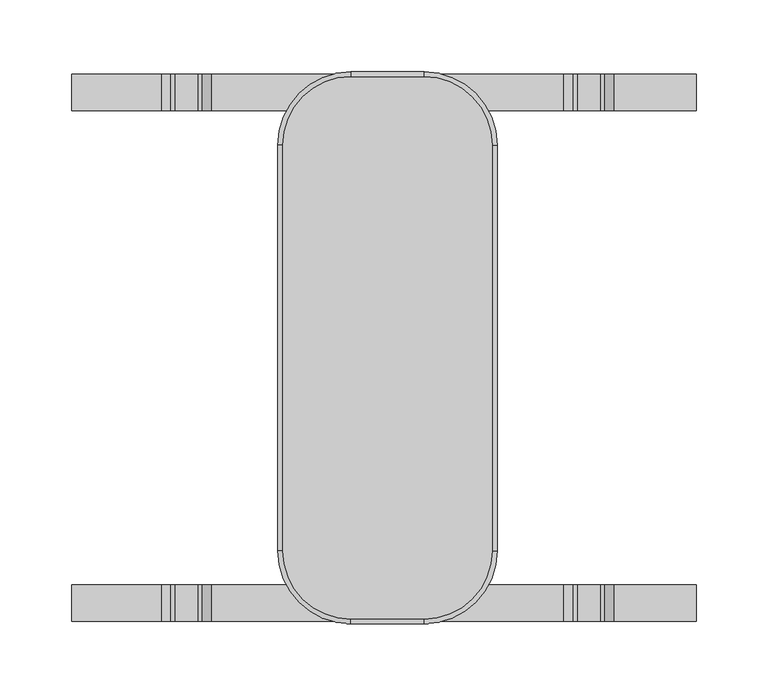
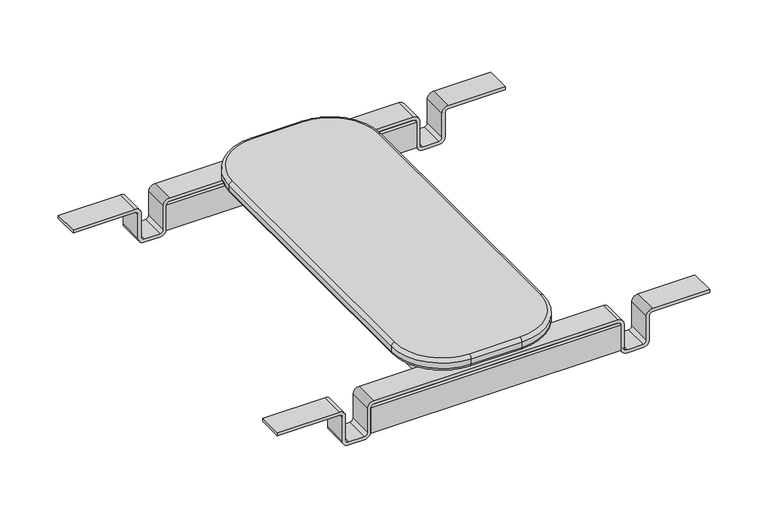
"""IFC4 building model written with IfcOpenShell, lengths in millimetres: furniture geometry, Stance_HC-Spry-Linking_Bracket : SPLT6."""

from ifc_helpers import new_model, si_unit, point, frame, frame_2d, origin, place, context, project, spatial, polyline, circle_curve, ellipse_curve, trimmed, segment, composite_curve, outline, extrude, source, transform, mapped, element, save
from ifc_brep_helpers import plane_surface, cylinder_surface, revolved_surface, advanced_brep


def furniture_fae9c8eb(model_context):
    return source(origin(), model_context, "Body", "SolidModel", [
        extrude(outline(polyline([(28.0190545, -164.7825), (2.6190545, -164.7825), (2.6190545, 164.7825), (28.0190545, 164.7825), (28.0190545, -164.7825)])), frame((0.0, 0.0, 353.1938169), z_axis=(0.0, 0.0, 1.0), x_axis=(1.0, 0.0, 0.0)), (0.0, 0.0, 1.0), 25.4),
        extrude(outline(polyline([(109.7429788, -164.7825), (84.3429788, -164.7825), (84.3429788, 164.7825), (109.7429788, 164.7825), (109.7429788, -164.7825)])), frame((0.0, 0.0, 353.1938169), z_axis=(0.0, 0.0, 1.0), x_axis=(1.0, 0.0, 0.0)), (0.0, 0.0, 1.0), 25.4),
        advanced_brep(
        [(132.3810167, 140.9523441, 386.8898412), (81.5810167, 191.7523441, 386.8898412), (81.5810167, 188.5773441, 390.0648412), (129.2060167, 140.9523441, 390.0648412), (132.3810167, 140.9523441, 381.2510412), (81.5810167, 191.7523441, 381.2510412), (129.2060167, 140.9523441, 378.0760412), (81.5810167, 188.5773441, 378.0760412), (129.2060167, -140.9523441, 390.0648412), (132.3810167, -140.9523441, 386.8898412), (132.3810167, -140.9523441, 381.2510412), (129.2060167, -140.9523441, 378.0760412), (81.5810167, -188.5773441, 390.0648412), (81.5810167, -191.7523441, 386.8898412), (81.5810167, -191.7523441, 381.2510412), (81.5810167, -188.5773441, 378.0760412), (30.7810167, -188.5773441, 390.0648412), (30.7810167, -191.7523441, 386.8898412), (30.7810167, -191.7523441, 381.2510412), (30.7810167, -188.5773441, 378.0760412), (-16.8439833, -140.9523441, 390.0648412), (-20.0189833, -140.9523441, 386.8898412), (-20.0189833, -140.9523441, 381.2510412), (-16.8439833, -140.9523441, 378.0760412), (-16.8439833, 140.9523441, 390.0648412), (-20.0189833, 140.9523441, 386.8898412), (-20.0189833, 140.9523441, 381.2510412), (-16.8439833, 140.9523441, 378.0760412), (30.7810167, 188.5773441, 390.0648412), (30.7810167, 191.7523441, 386.8898412), (30.7810167, 191.7523441, 381.2510412), (30.7810167, 188.5773441, 378.0760412)],
        [
            (0, 1, circle_curve(frame((81.5810167, 140.9523441, 386.8898412), z_axis=(0.0, 0.0, 1.0), x_axis=(0.0, 1.0, 0.0)), 50.8)),
            (1, 2, circle_curve(frame((81.5810167, 188.5773441, 386.8898412), z_axis=(1.0, 0.0, 0.0), x_axis=(0.0, 1.0, 0.0)), 3.175)),
            (2, 3, circle_curve(frame((81.5810167, 140.9523441, 390.0648412), z_axis=(0.0, 0.0, -1.0), x_axis=(0.0, 1.0, 0.0)), 47.625)),
            (3, 0, circle_curve(frame((129.2060167, 140.9523441, 386.8898412), z_axis=(0.0, 1.0, 0.0), x_axis=(1.0, 0.0, 0.0)), 3.175)),
            (0, 4),
            (4, 5, circle_curve(frame((81.5810167, 140.9523441, 381.2510412), z_axis=(0.0, 0.0, 1.0), x_axis=(0.0, 1.0, 0.0)), 50.8)),
            (5, 1),
            (4, 6, circle_curve(frame((129.2060167, 140.9523441, 381.2510412), z_axis=(0.0, 1.0, 0.0), x_axis=(1.0, 0.0, 0.0)), 3.175)),
            (6, 7, circle_curve(frame((81.5810167, 140.9523441, 378.0760412), z_axis=(0.0, 0.0, 1.0), x_axis=(0.0, 1.0, 0.0)), 47.625)),
            (7, 5, circle_curve(frame((81.5810167, 188.5773441, 381.2510412), z_axis=(1.0, 0.0, 0.0), x_axis=(0.0, 1.0, 0.0)), 3.175)),
            (3, 8),
            (8, 9, circle_curve(frame((129.2060167, -140.9523441, 386.8898412), z_axis=(0.0, 1.0, 0.0), x_axis=(1.0, 0.0, 0.0)), 3.175)),
            (9, 0),
            (9, 10),
            (10, 4),
            (10, 11, circle_curve(frame((129.2060167, -140.9523441, 381.2510412), z_axis=(0.0, 1.0, 0.0), x_axis=(1.0, 0.0, 0.0)), 3.175)),
            (11, 6),
            (8, 12, circle_curve(frame((81.5810167, -140.9523441, 390.0648412), z_axis=(0.0, 0.0, -1.0), x_axis=(1.0, 0.0, 0.0)), 47.625)),
            (12, 13, circle_curve(frame((81.5810167, -188.5773441, 386.8898412), z_axis=(1.0, 0.0, 0.0), x_axis=(0.0, -1.0, 0.0)), 3.175)),
            (13, 9, circle_curve(frame((81.5810167, -140.9523441, 386.8898412), z_axis=(0.0, 0.0, 1.0), x_axis=(1.0, 0.0, 0.0)), 50.8)),
            (13, 14),
            (14, 10, circle_curve(frame((81.5810167, -140.9523441, 381.2510412), z_axis=(0.0, 0.0, 1.0), x_axis=(1.0, 0.0, 0.0)), 50.8)),
            (14, 15, circle_curve(frame((81.5810167, -188.5773441, 381.2510412), z_axis=(1.0, 0.0, 0.0), x_axis=(0.0, -1.0, 0.0)), 3.175)),
            (15, 11, circle_curve(frame((81.5810167, -140.9523441, 378.0760412), z_axis=(0.0, 0.0, 1.0), x_axis=(1.0, 0.0, 0.0)), 47.625)),
            (12, 16),
            (16, 17, circle_curve(frame((30.7810167, -188.5773441, 386.8898412), z_axis=(1.0, 0.0, 0.0), x_axis=(0.0, -1.0, 0.0)), 3.175)),
            (17, 13),
            (17, 18),
            (18, 14),
            (18, 19, circle_curve(frame((30.7810167, -188.5773441, 381.2510412), z_axis=(1.0, 0.0, 0.0), x_axis=(0.0, -1.0, 0.0)), 3.175)),
            (19, 15),
            (16, 20, circle_curve(frame((30.7810167, -140.9523441, 390.0648412), z_axis=(0.0, 0.0, -1.0), x_axis=(0.0, -1.0, 0.0)), 47.625)),
            (20, 21, circle_curve(frame((-16.8439833, -140.9523441, 386.8898412), z_axis=(0.0, -1.0, 0.0), x_axis=(-1.0, 0.0, 0.0)), 3.175)),
            (21, 17, circle_curve(frame((30.7810167, -140.9523441, 386.8898412), z_axis=(0.0, 0.0, 1.0), x_axis=(0.0, -1.0, 0.0)), 50.8)),
            (21, 22),
            (22, 18, circle_curve(frame((30.7810167, -140.9523441, 381.2510412), z_axis=(0.0, 0.0, 1.0), x_axis=(0.0, -1.0, 0.0)), 50.8)),
            (22, 23, circle_curve(frame((-16.8439833, -140.9523441, 381.2510412), z_axis=(0.0, -1.0, 0.0), x_axis=(-1.0, 0.0, 0.0)), 3.175)),
            (23, 19, circle_curve(frame((30.7810167, -140.9523441, 378.0760412), z_axis=(0.0, 0.0, 1.0), x_axis=(0.0, -1.0, 0.0)), 47.625)),
            (20, 24),
            (24, 25, circle_curve(frame((-16.8439833, 140.9523441, 386.8898412), z_axis=(0.0, -1.0, 0.0), x_axis=(-1.0, 0.0, 0.0)), 3.175)),
            (25, 21),
            (25, 26),
            (26, 22),
            (26, 27, circle_curve(frame((-16.8439833, 140.9523441, 381.2510412), z_axis=(0.0, -1.0, 0.0), x_axis=(-1.0, 0.0, 0.0)), 3.175)),
            (27, 23),
            (24, 28, circle_curve(frame((30.7810167, 140.9523441, 390.0648412), z_axis=(0.0, 0.0, -1.0), x_axis=(-1.0, 0.0, 0.0)), 47.625)),
            (28, 29, circle_curve(frame((30.7810167, 188.5773441, 386.8898412), z_axis=(-1.0, 0.0, 0.0), x_axis=(0.0, 1.0, 0.0)), 3.175)),
            (29, 25, circle_curve(frame((30.7810167, 140.9523441, 386.8898412), z_axis=(0.0, 0.0, 1.0), x_axis=(-1.0, 0.0, 0.0)), 50.8)),
            (29, 30),
            (30, 26, circle_curve(frame((30.7810167, 140.9523441, 381.2510412), z_axis=(0.0, 0.0, 1.0), x_axis=(-1.0, 0.0, 0.0)), 50.8)),
            (30, 31, circle_curve(frame((30.7810167, 188.5773441, 381.2510412), z_axis=(-1.0, 0.0, 0.0), x_axis=(0.0, 1.0, 0.0)), 3.175)),
            (31, 27, circle_curve(frame((30.7810167, 140.9523441, 378.0760412), z_axis=(0.0, 0.0, 1.0), x_axis=(-1.0, 0.0, 0.0)), 47.625)),
            (1, 29),
            (28, 2),
            (5, 30),
            (7, 31),
        ],
        [
            revolved_surface(trimmed(ellipse_curve(frame((81.5810167, 188.5773441, 386.8898412), z_axis=(-1.0, 0.0, 0.0), x_axis=(0.0, 1.0, 0.0)), 3.175, 3.175), [point((81.5810167, 188.5773441, 390.0648412))], [point((81.5810167, 191.7523441, 386.8898412))], True, "CARTESIAN"), (81.5810167, 140.9523441, 0.0), (0.0, 0.0, -1.0)),
            cylinder_surface(frame((81.5810167, 140.9523441, 0.0), z_axis=(0.0, 0.0, -1.0), x_axis=(0.0, 1.0, 0.0)), 50.8),
            revolved_surface(trimmed(ellipse_curve(frame((81.5810167, 188.5773441, 381.2510412), z_axis=(-1.0, 0.0, 0.0), x_axis=(0.0, 1.0, 0.0)), 3.175, 3.175), [point((81.5810167, 191.7523441, 381.2510412))], [point((81.5810167, 188.5773441, 378.0760412))], True, "CARTESIAN"), (81.5810167, 140.9523441, 0.0), (0.0, 0.0, -1.0)),
            cylinder_surface(frame((129.2060167, 140.9523441, 386.8898412), z_axis=(0.0, 1.0, 0.0), x_axis=(1.0, 0.0, 0.0)), 3.175),
            plane_surface(frame((132.3810167, 140.9523441, 386.8898412), z_axis=(1.0, 0.0, 0.0), x_axis=(0.0, -1.0, 0.0))),
            cylinder_surface(frame((129.2060167, 140.9523441, 381.2510412), z_axis=(0.0, 1.0, 0.0), x_axis=(1.0, 0.0, 0.0)), 3.175),
            revolved_surface(trimmed(ellipse_curve(frame((129.2060167, -140.9523441, 386.8898412), z_axis=(0.0, 1.0, 0.0), x_axis=(1.0, 0.0, 0.0)), 3.175, 3.175), [point((129.2060167, -140.9523441, 390.0648412))], [point((132.3810167, -140.9523441, 386.8898412))], True, "CARTESIAN"), (81.5810167, -140.9523441, 0.0), (0.0, 0.0, -1.0)),
            cylinder_surface(frame((81.5810167, -140.9523441, 0.0), z_axis=(0.0, 0.0, -1.0), x_axis=(1.0, 0.0, 0.0)), 50.8),
            revolved_surface(trimmed(ellipse_curve(frame((129.2060167, -140.9523441, 381.2510412), z_axis=(0.0, 1.0, 0.0), x_axis=(1.0, 0.0, 0.0)), 3.175, 3.175), [point((132.3810167, -140.9523441, 381.2510412))], [point((129.2060167, -140.9523441, 378.0760412))], True, "CARTESIAN"), (81.5810167, -140.9523441, 0.0), (0.0, 0.0, -1.0)),
            cylinder_surface(frame((81.5810167, -188.5773441, 386.8898412), z_axis=(1.0, 0.0, 0.0), x_axis=(0.0, -1.0, 0.0)), 3.175),
            plane_surface(frame((81.5810167, -191.7523441, 386.8898412), z_axis=(0.0, -1.0, 0.0), x_axis=(-1.0, 0.0, 0.0))),
            cylinder_surface(frame((81.5810167, -188.5773441, 381.2510412), z_axis=(1.0, 0.0, 0.0), x_axis=(0.0, -1.0, 0.0)), 3.175),
            revolved_surface(trimmed(ellipse_curve(frame((30.7810167, -188.5773441, 386.8898412), z_axis=(1.0, 0.0, 0.0), x_axis=(0.0, -1.0, 0.0)), 3.175, 3.175), [point((30.7810167, -188.5773441, 390.0648412))], [point((30.7810167, -191.7523441, 386.8898412))], True, "CARTESIAN"), (30.7810167, -140.9523441, 0.0), (0.0, 0.0, -1.0)),
            cylinder_surface(frame((30.7810167, -140.9523441, 0.0), z_axis=(0.0, 0.0, -1.0), x_axis=(0.0, -1.0, 0.0)), 50.8),
            revolved_surface(trimmed(ellipse_curve(frame((30.7810167, -188.5773441, 381.2510412), z_axis=(1.0, 0.0, 0.0), x_axis=(0.0, -1.0, 0.0)), 3.175, 3.175), [point((30.7810167, -191.7523441, 381.2510412))], [point((30.7810167, -188.5773441, 378.0760412))], True, "CARTESIAN"), (30.7810167, -140.9523441, 0.0), (0.0, 0.0, -1.0)),
            cylinder_surface(frame((-16.8439833, -140.9523441, 386.8898412), z_axis=(0.0, -1.0, 0.0), x_axis=(-1.0, 0.0, 0.0)), 3.175),
            plane_surface(frame((-20.0189833, -140.9523441, 386.8898412), z_axis=(-1.0, 0.0, 0.0), x_axis=(0.0, 1.0, 0.0))),
            cylinder_surface(frame((-16.8439833, -140.9523441, 381.2510412), z_axis=(0.0, -1.0, 0.0), x_axis=(-1.0, 0.0, 0.0)), 3.175),
            revolved_surface(trimmed(ellipse_curve(frame((-16.8439833, 140.9523441, 386.8898412), z_axis=(0.0, -1.0, 0.0), x_axis=(-1.0, 0.0, 0.0)), 3.175, 3.175), [point((-16.8439833, 140.9523441, 390.0648412))], [point((-20.0189833, 140.9523441, 386.8898412))], True, "CARTESIAN"), (30.7810167, 140.9523441, 0.0), (0.0, 0.0, -1.0)),
            cylinder_surface(frame((30.7810167, 140.9523441, 0.0), z_axis=(0.0, 0.0, -1.0), x_axis=(-1.0, 0.0, 0.0)), 50.8),
            revolved_surface(trimmed(ellipse_curve(frame((-16.8439833, 140.9523441, 381.2510412), z_axis=(0.0, -1.0, 0.0), x_axis=(-1.0, 0.0, 0.0)), 3.175, 3.175), [point((-20.0189833, 140.9523441, 381.2510412))], [point((-16.8439833, 140.9523441, 378.0760412))], True, "CARTESIAN"), (30.7810167, 140.9523441, 0.0), (0.0, 0.0, -1.0)),
            cylinder_surface(frame((30.7810167, 188.5773441, 386.8898412), z_axis=(-1.0, 0.0, 0.0), x_axis=(0.0, 1.0, 0.0)), 3.175),
            plane_surface(frame((30.7810167, 191.7523441, 386.8898412), z_axis=(0.0, 1.0, 0.0), x_axis=(1.0, 0.0, 0.0))),
            cylinder_surface(frame((30.7810167, 188.5773441, 381.2510412), z_axis=(-1.0, 0.0, 0.0), x_axis=(0.0, 1.0, 0.0)), 3.175),
            plane_surface(frame((-16.8439833, -140.9523441, 390.0648412), z_axis=(0.0, 0.0, 1.0), x_axis=(0.0, -1.0, 0.0))),
            plane_surface(frame((-16.8439833, -140.9523441, 378.0760412), z_axis=(0.0, 0.0, -1.0), x_axis=(0.0, 1.0, 0.0))),
        ],
        [
            (0, [[1, 2, 3, 4]]),
            (1, [[-1, 5, 6, 7]]),
            (2, [[-6, 8, 9, 10]]),
            (3, [[-4, 11, 12, 13]]),
            (4, [[-5, -13, 14, 15]]),
            (5, [[-8, -15, 16, 17]]),
            (6, [[-12, 18, 19, 20]]),
            (7, [[-14, -20, 21, 22]]),
            (8, [[-16, -22, 23, 24]]),
            (9, [[-19, 25, 26, 27]]),
            (10, [[-21, -27, 28, 29]]),
            (11, [[-23, -29, 30, 31]]),
            (12, [[-26, 32, 33, 34]]),
            (13, [[-28, -34, 35, 36]]),
            (14, [[-30, -36, 37, 38]]),
            (15, [[-33, 39, 40, 41]]),
            (16, [[-35, -41, 42, 43]]),
            (17, [[-37, -43, 44, 45]]),
            (18, [[-40, 46, 47, 48]]),
            (19, [[-42, -48, 49, 50]]),
            (20, [[-44, -50, 51, 52]]),
            (21, [[-2, 53, -47, 54]]),
            (22, [[-7, 55, -49, -53]]),
            (23, [[-10, 56, -51, -55]]),
            (24, [[-3, -54, -46, -39, -32, -25, -18, -11]]),
            (25, [[-9, -17, -24, -31, -38, -45, -52, -56]]),
        ],
    ),
        extrude(outline(polyline([(-69.2314833, 187.0075), (-69.2314833, 190.1825), (181.5935167, 190.1825), (181.5935167, 187.0075), (-69.2314833, 187.0075)])), frame((0.0, 0.0, 341.9015102), z_axis=(0.0, 0.0, 1.0), x_axis=(1.0, 0.0, 0.0)), (0.0, 0.0, 1.0), 26.9875),
        extrude(outline(polyline([(-69.2314833, 164.7825), (-69.2314833, 167.9575), (181.5935167, 167.9575), (181.5935167, 164.7825), (-69.2314833, 164.7825)])), frame((0.0, 0.0, 341.9015102), z_axis=(0.0, 0.0, 1.0), x_axis=(1.0, 0.0, 0.0)), (0.0, 0.0, 1.0), 26.9875),
        extrude(outline(polyline([(-69.2314833, -190.1825), (-69.2314833, -187.0075), (181.5935167, -187.0075), (181.5935167, -190.1825), (-69.2314833, -190.1825)])), frame((0.0, 0.0, 341.9015102), z_axis=(0.0, 0.0, 1.0), x_axis=(1.0, 0.0, 0.0)), (0.0, 0.0, 1.0), 26.9875),
        extrude(outline(polyline([(-69.2314833, -167.9575), (-69.2314833, -164.7825), (181.5935167, -164.7825), (181.5935167, -167.9575), (-69.2314833, -167.9575)])), frame((0.0, 0.0, 341.9015102), z_axis=(0.0, 0.0, 1.0), x_axis=(1.0, 0.0, 0.0)), (0.0, 0.0, 1.0), 26.9875),
        extrude(outline(composite_curve([segment(polyline([(375.2390102, -162.8939833), (372.0640102, -162.8939833), (372.0640102, -100.9814833)]), True, "CONTINUOUS"), segment(trimmed(circle_curve(frame_2d((368.8890102, -100.9814833)), 3.175), [point((372.0640102, -100.9814833))], [point((368.8890102, -97.8064833))], True, "CARTESIAN"), True, "CONTINUOUS"), segment(polyline([(368.8890102, -97.8064833), (343.4890102, -97.8064833)]), True, "CONTINUOUS"), segment(trimmed(circle_curve(frame_2d((343.4890102, -91.4564833)), 6.35), [point((343.4890102, -97.8064833))], [point((337.1390102, -91.4564833))], False, "CARTESIAN"), True, "CONTINUOUS"), segment(polyline([(337.1390102, -91.4564833), (337.1390102, -75.5814833)]), True, "CONTINUOUS"), segment(trimmed(circle_curve(frame_2d((343.4890102, -75.5814833)), 6.35), [point((337.1390102, -75.5814833))], [point((343.4890102, -69.2314833))], False, "CARTESIAN"), True, "CONTINUOUS"), segment(polyline([(343.4890102, -69.2314833), (368.8890102, -69.2314833)]), True, "CONTINUOUS"), segment(trimmed(circle_curve(frame_2d((368.8890102, -66.0564833)), 3.175), [point((368.8890102, -69.2314833))], [point((372.0640102, -66.0564833))], True, "CARTESIAN"), True, "CONTINUOUS"), segment(polyline([(372.0640102, -66.0564833), (372.0640102, 178.4185167)]), True, "CONTINUOUS"), segment(trimmed(circle_curve(frame_2d((368.8890102, 178.4185167)), 3.175), [point((372.0640102, 178.4185167))], [point((368.8890102, 181.5935167))], True, "CARTESIAN"), True, "CONTINUOUS"), segment(polyline([(368.8890102, 181.5935167), (343.4890102, 181.5935167)]), True, "CONTINUOUS"), segment(trimmed(circle_curve(frame_2d((343.4890102, 187.9435167)), 6.35), [point((343.4890102, 181.5935167))], [point((337.1390102, 187.9435167))], False, "CARTESIAN"), True, "CONTINUOUS"), segment(polyline([(337.1390102, 187.9435167), (337.1390102, 203.8185167)]), True, "CONTINUOUS"), segment(trimmed(circle_curve(frame_2d((343.4890102, 203.8185167)), 6.35), [point((337.1390102, 203.8185167))], [point((343.4890102, 210.1685167))], False, "CARTESIAN"), True, "CONTINUOUS"), segment(polyline([(343.4890102, 210.1685167), (368.8890102, 210.1685167)]), True, "CONTINUOUS"), segment(trimmed(circle_curve(frame_2d((368.8890102, 213.3435167)), 3.175), [point((368.8890102, 210.1685167))], [point((372.0640102, 213.3435167))], True, "CARTESIAN"), True, "CONTINUOUS"), segment(polyline([(372.0640102, 213.3435167), (372.0640102, 270.4935167), (375.2390102, 270.4935167), (375.2390102, 213.3435167)]), True, "CONTINUOUS"), segment(trimmed(circle_curve(frame_2d((368.8890102, 213.3435167)), 6.35), [point((375.2390102, 213.3435167))], [point((368.8890102, 206.9935167))], False, "CARTESIAN"), True, "CONTINUOUS"), segment(polyline([(368.8890102, 206.9935167), (343.4890102, 206.9935167)]), True, "CONTINUOUS"), segment(trimmed(circle_curve(frame_2d((343.4890102, 203.8185167)), 3.175), [point((343.4890102, 206.9935167))], [point((340.3140102, 203.8185167))], True, "CARTESIAN"), True, "CONTINUOUS"), segment(polyline([(340.3140102, 203.8185167), (340.3140102, 187.9435167)]), True, "CONTINUOUS"), segment(trimmed(circle_curve(frame_2d((343.4890102, 187.9435167)), 3.175), [point((340.3140102, 187.9435167))], [point((343.4890102, 184.7685167))], True, "CARTESIAN"), True, "CONTINUOUS"), segment(polyline([(343.4890102, 184.7685167), (368.8890102, 184.7685167)]), True, "CONTINUOUS"), segment(trimmed(circle_curve(frame_2d((368.8890102, 178.4185167)), 6.35), [point((368.8890102, 184.7685167))], [point((375.2390102, 178.4185167))], False, "CARTESIAN"), True, "CONTINUOUS"), segment(polyline([(375.2390102, 178.4185167), (375.2390102, -66.0564833)]), True, "CONTINUOUS"), segment(trimmed(circle_curve(frame_2d((368.8890102, -66.0564833)), 6.35), [point((375.2390102, -66.0564833))], [point((368.8890102, -72.4064833))], False, "CARTESIAN"), True, "CONTINUOUS"), segment(polyline([(368.8890102, -72.4064833), (343.4890102, -72.4064833)]), True, "CONTINUOUS"), segment(trimmed(circle_curve(frame_2d((343.4890102, -75.5814833)), 3.175), [point((343.4890102, -72.4064833))], [point((340.3140102, -75.5814833))], True, "CARTESIAN"), True, "CONTINUOUS"), segment(polyline([(340.3140102, -75.5814833), (340.3140102, -91.4564833)]), True, "CONTINUOUS"), segment(trimmed(circle_curve(frame_2d((343.4890102, -91.4564833)), 3.175), [point((340.3140102, -91.4564833))], [point((343.4890102, -94.6314833))], True, "CARTESIAN"), True, "CONTINUOUS"), segment(polyline([(343.4890102, -94.6314833), (368.8890102, -94.6314833)]), True, "CONTINUOUS"), segment(trimmed(circle_curve(frame_2d((368.8890102, -100.9814833)), 6.35), [point((368.8890102, -94.6314833))], [point((375.2390102, -100.9814833))], False, "CARTESIAN"), True, "CONTINUOUS"), segment(polyline([(375.2390102, -100.9814833), (375.2390102, -162.8939833)]), True, "CONTINUOUS")], self_intersect=False)), frame((0.0, 164.7825, 0.0), z_axis=(0.0, 1.0, 0.0), x_axis=(0.0, 0.0, 1.0)), (0.0, 0.0, 1.0), 25.4),
        extrude(outline(composite_curve([segment(polyline([(375.2390102, -162.8939833), (372.0640102, -162.8939833), (372.0640102, -100.9814833)]), True, "CONTINUOUS"), segment(trimmed(circle_curve(frame_2d((368.8890102, -100.9814833)), 3.175), [point((372.0640102, -100.9814833))], [point((368.8890102, -97.8064833))], True, "CARTESIAN"), True, "CONTINUOUS"), segment(polyline([(368.8890102, -97.8064833), (343.4890102, -97.8064833)]), True, "CONTINUOUS"), segment(trimmed(circle_curve(frame_2d((343.4890102, -91.4564833)), 6.35), [point((343.4890102, -97.8064833))], [point((337.1390102, -91.4564833))], False, "CARTESIAN"), True, "CONTINUOUS"), segment(polyline([(337.1390102, -91.4564833), (337.1390102, -75.5814833)]), True, "CONTINUOUS"), segment(trimmed(circle_curve(frame_2d((343.4890102, -75.5814833)), 6.35), [point((337.1390102, -75.5814833))], [point((343.4890102, -69.2314833))], False, "CARTESIAN"), True, "CONTINUOUS"), segment(polyline([(343.4890102, -69.2314833), (368.8890102, -69.2314833)]), True, "CONTINUOUS"), segment(trimmed(circle_curve(frame_2d((368.8890102, -66.0564833)), 3.175), [point((368.8890102, -69.2314833))], [point((372.0640102, -66.0564833))], True, "CARTESIAN"), True, "CONTINUOUS"), segment(polyline([(372.0640102, -66.0564833), (372.0640102, 178.4185167)]), True, "CONTINUOUS"), segment(trimmed(circle_curve(frame_2d((368.8890102, 178.4185167)), 3.175), [point((372.0640102, 178.4185167))], [point((368.8890102, 181.5935167))], True, "CARTESIAN"), True, "CONTINUOUS"), segment(polyline([(368.8890102, 181.5935167), (343.4890102, 181.5935167)]), True, "CONTINUOUS"), segment(trimmed(circle_curve(frame_2d((343.4890102, 187.9435167)), 6.35), [point((343.4890102, 181.5935167))], [point((337.1390102, 187.9435167))], False, "CARTESIAN"), True, "CONTINUOUS"), segment(polyline([(337.1390102, 187.9435167), (337.1390102, 203.8185167)]), True, "CONTINUOUS"), segment(trimmed(circle_curve(frame_2d((343.4890102, 203.8185167)), 6.35), [point((337.1390102, 203.8185167))], [point((343.4890102, 210.1685167))], False, "CARTESIAN"), True, "CONTINUOUS"), segment(polyline([(343.4890102, 210.1685167), (368.8890102, 210.1685167)]), True, "CONTINUOUS"), segment(trimmed(circle_curve(frame_2d((368.8890102, 213.3435167)), 3.175), [point((368.8890102, 210.1685167))], [point((372.0640102, 213.3435167))], True, "CARTESIAN"), True, "CONTINUOUS"), segment(polyline([(372.0640102, 213.3435167), (372.0640102, 270.4935167), (375.2390102, 270.4935167), (375.2390102, 213.3435167)]), True, "CONTINUOUS"), segment(trimmed(circle_curve(frame_2d((368.8890102, 213.3435167)), 6.35), [point((375.2390102, 213.3435167))], [point((368.8890102, 206.9935167))], False, "CARTESIAN"), True, "CONTINUOUS"), segment(polyline([(368.8890102, 206.9935167), (343.4890102, 206.9935167)]), True, "CONTINUOUS"), segment(trimmed(circle_curve(frame_2d((343.4890102, 203.8185167)), 3.175), [point((343.4890102, 206.9935167))], [point((340.3140102, 203.8185167))], True, "CARTESIAN"), True, "CONTINUOUS"), segment(polyline([(340.3140102, 203.8185167), (340.3140102, 187.9435167)]), True, "CONTINUOUS"), segment(trimmed(circle_curve(frame_2d((343.4890102, 187.9435167)), 3.175), [point((340.3140102, 187.9435167))], [point((343.4890102, 184.7685167))], True, "CARTESIAN"), True, "CONTINUOUS"), segment(polyline([(343.4890102, 184.7685167), (368.8890102, 184.7685167)]), True, "CONTINUOUS"), segment(trimmed(circle_curve(frame_2d((368.8890102, 178.4185167)), 6.35), [point((368.8890102, 184.7685167))], [point((375.2390102, 178.4185167))], False, "CARTESIAN"), True, "CONTINUOUS"), segment(polyline([(375.2390102, 178.4185167), (375.2390102, -66.0564833)]), True, "CONTINUOUS"), segment(trimmed(circle_curve(frame_2d((368.8890102, -66.0564833)), 6.35), [point((375.2390102, -66.0564833))], [point((368.8890102, -72.4064833))], False, "CARTESIAN"), True, "CONTINUOUS"), segment(polyline([(368.8890102, -72.4064833), (343.4890102, -72.4064833)]), True, "CONTINUOUS"), segment(trimmed(circle_curve(frame_2d((343.4890102, -75.5814833)), 3.175), [point((343.4890102, -72.4064833))], [point((340.3140102, -75.5814833))], True, "CARTESIAN"), True, "CONTINUOUS"), segment(polyline([(340.3140102, -75.5814833), (340.3140102, -91.4564833)]), True, "CONTINUOUS"), segment(trimmed(circle_curve(frame_2d((343.4890102, -91.4564833)), 3.175), [point((340.3140102, -91.4564833))], [point((343.4890102, -94.6314833))], True, "CARTESIAN"), True, "CONTINUOUS"), segment(polyline([(343.4890102, -94.6314833), (368.8890102, -94.6314833)]), True, "CONTINUOUS"), segment(trimmed(circle_curve(frame_2d((368.8890102, -100.9814833)), 6.35), [point((368.8890102, -94.6314833))], [point((375.2390102, -100.9814833))], False, "CARTESIAN"), True, "CONTINUOUS"), segment(polyline([(375.2390102, -100.9814833), (375.2390102, -162.8939833)]), True, "CONTINUOUS")], self_intersect=False)), frame((0.0, -190.1825, 0.0), z_axis=(0.0, 1.0, 0.0), x_axis=(0.0, 0.0, 1.0)), (0.0, 0.0, 1.0), 25.4),
    ])


if __name__ == "__main__":
    model = new_model("IFC4")
    model_context = context("Model", 3, world=origin())
    ifc_project = project(units=[si_unit("LENGTHUNIT", "METRE", prefix="MILLI")], contexts=[model_context])
    site = spatial("IfcSite", under=ifc_project)
    building = spatial("IfcBuilding", under=site)
    placement = place(None, origin())
    furniture_shape = furniture_fae9c8eb(model_context)
    element("IfcFurniture", 1, ObjectType="Stance_HC-Spry-Linking_Bracket : SPLT6", at=placement, inside=building, context=model_context, shape_type="MappedRepresentation", body=[
        mapped(furniture_shape, transform((0.0, 0.0, 0.0), x_axis=(1.0, 0.0, 0.0), y_axis=(0.0, 1.0, 0.0), z_axis=(0.0, 0.0, 1.0))),
    ])
    save(model, "model.ifc")
